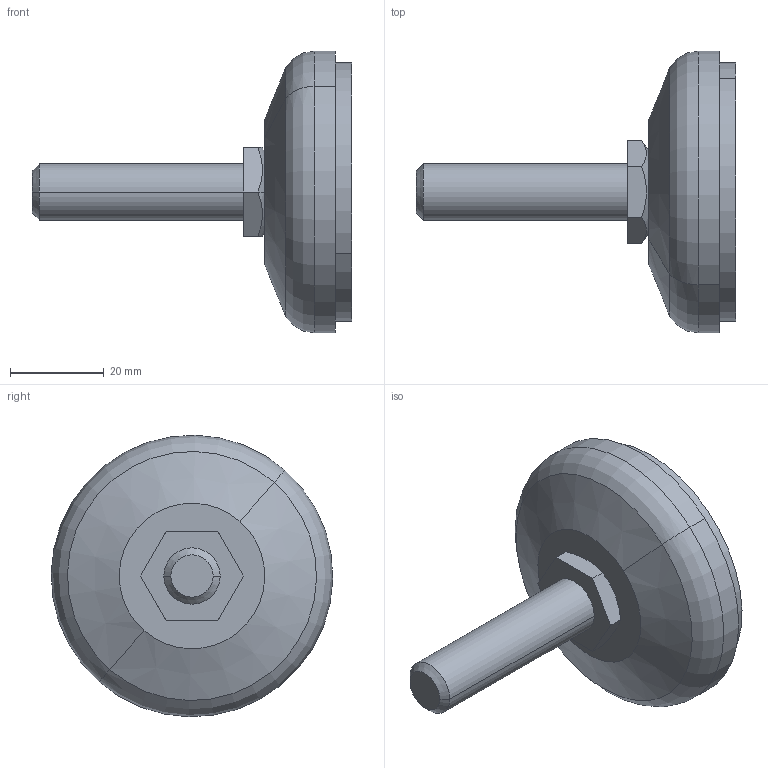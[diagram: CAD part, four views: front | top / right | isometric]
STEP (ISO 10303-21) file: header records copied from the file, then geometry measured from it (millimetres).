
FILE_DESCRIPTION (( 'STEP AP214' ), '1' );
FILE_NAME ('4.431.002.STEP', '2010-03-19T18:16:16', ( '£ukaszC' ), ( '' ), 'SwSTEP 2.0', 'SolidWorks 2008', '' );
FILE_SCHEMA (( 'AUTOMOTIVE_DESIGN' ));
Length unit declared in the file: millimetre
Products named in the file (6): 4.431.002.01; 4.431.001.03; 4.431.001.02; 4.431.001.05; 4.431.001.04; 4.431.002
Assembly tree (5 placements, depth 2):
  4.431.002
    4.431.001.02
    4.431.002.01
    4.431.001.04
    4.431.001.03
    4.431.001.05
Bounding box: 68.03 x 59.98 x 59.98 mm (x, y, z)
Volume: 44562 mm3; surface area: 19102.4 mm2
Topology: 5 solids, 5 shells, 69 faces, 138 edges, 84 vertices
Faces by surface type: cylinder 22, plane 21, cone 14, torus 10, sphere 2
Entity records: 2031 total; most frequent: DIRECTION 382, CARTESIAN_POINT 299, ORIENTED_EDGE 276, AXIS2_PLACEMENT_3D 167, EDGE_CURVE 138, CIRCLE 90, VERTEX_POINT 84, EDGE_LOOP 80
